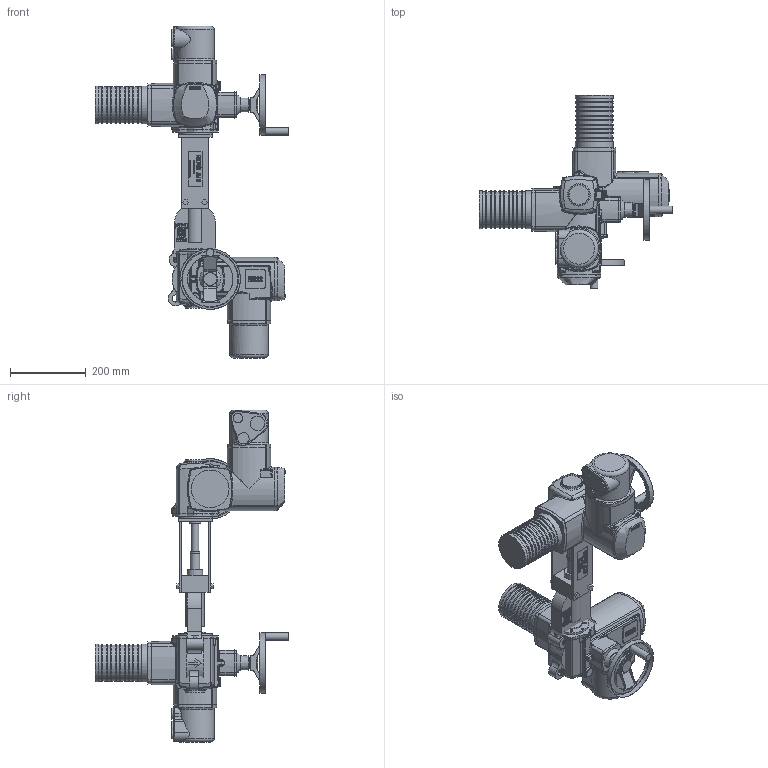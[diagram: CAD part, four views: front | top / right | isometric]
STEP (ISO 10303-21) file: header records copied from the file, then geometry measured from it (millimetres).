
FILE_DESCRIPTION( ( 'Unknown' ), '1' );
FILE_NAME( 'J:/Muud/ROOTSI BPS 3D vidinad/Nugasiibrid/Knife gate valve with electric actuator BPS/STEP formaat/BPS 2010065E knife gate valve DN65.stp', 'Unknown', ( 'Unknown' ), ( 'Unknown' ), 'PSStep 10.1', 'Unknown', ' ' );
FILE_SCHEMA( ( 'AUTOMOTIVE_DESIGN { 1 0 10303 214 1 1 1 1 }' ) );
Length unit declared in the file: millimetre
Products named in the file (3): Assem1; Knife gate valve for electric drive DN65 BPS; AUMA electric actuator sa07.1(sa07.5)-oa0
Bounding box: 511.9 x 511.9 x 879 mm (x, y, z)
Volume: 18102373.3 mm3; surface area: 1149959.3 mm2
Topology: 4 solids, 4 shells, 2808 faces, 6748 edges, 4220 vertices
Faces by surface type: extrusion 1052, plane 594, cylinder 540, bspline 330, cone 154, torus 92, sphere 46
Full cylindrical faces by diameter (mm): 4.917 x8, 6.647 x8, 13.835 x4, 19 x4, 20 x6, 24 x4, 25 x4, 25.5 x2, 30 x8, 34 x2, 38.3 x2, 40 x2, 51.5 x2, 55 x2, 65 x4, 90 x2, 95 x20, 100 x22, 120 x2, 121 x2, 160 x2
Entity records: 72347 total; most frequent: CARTESIAN_POINT 31430, ORIENTED_EDGE 6426, DIRECTION 4781, EDGE_CURVE 3213, VERTEX_POINT 2083, VECTOR 1923, EDGE_LOOP 1680, B_SPLINE_CURVE_WITH_KNOTS 1629
